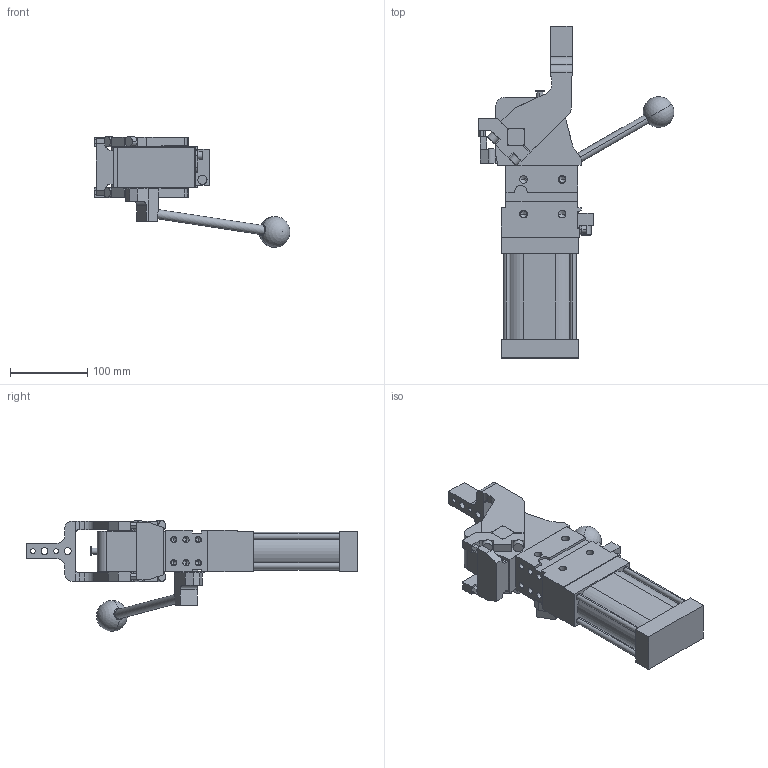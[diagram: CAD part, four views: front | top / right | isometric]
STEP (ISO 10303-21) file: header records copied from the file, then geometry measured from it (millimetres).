
FILE_DESCRIPTION (( 'STEP AP214' ), '1' );
FILE_NAME ('cplm63lbth3csi1g_75.STEP', '2023-01-26T15:07:51', ( '' ), ( '' ), 'SwSTEP 2.0', 'SolidWorks 2022', '' );
FILE_SCHEMA (( 'AUTOMOTIVE_DESIGN' ));
Length unit declared in the file: millimetre
Products named in the file (5): comando_manuale_cplm_63; leva_h3cs_cpl63t; cplm63lbth3csi1g_75; meccanica_cplm_63_tassello_esterno; blocchetto_VEP_0
Assembly tree (4 placements, depth 2):
  cplm63lbth3csi1g_75
    meccanica_cplm_63_tassello_esterno
    blocchetto_VEP_0
    leva_h3cs_cpl63t
    comando_manuale_cplm_63
Bounding box: 253.96 x 430.5 x 143.5 mm (x, y, z)
Volume: 1922080.6 mm3; surface area: 219996.7 mm2
Topology: 4 solids, 4 shells, 469 faces, 1239 edges, 773 vertices
Faces by surface type: plane 250, cylinder 167, cone 50, sphere 2
Entity records: 15766 total; most frequent: CARTESIAN_POINT 2510, DIRECTION 2506, ORIENTED_EDGE 2376, EDGE_CURVE 1188, AXIS2_PLACEMENT_3D 848, LINE 810, VECTOR 810, VERTEX_POINT 770
